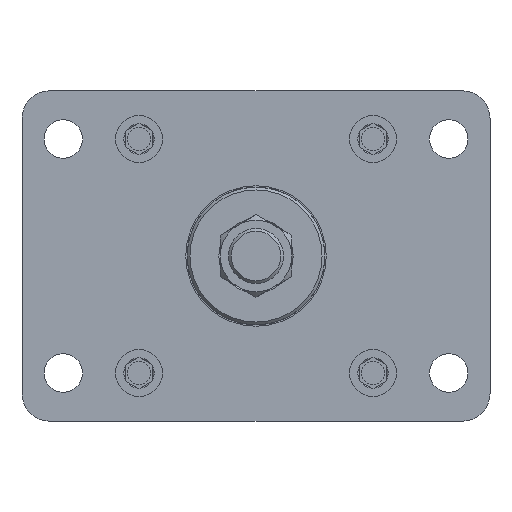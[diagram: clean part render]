
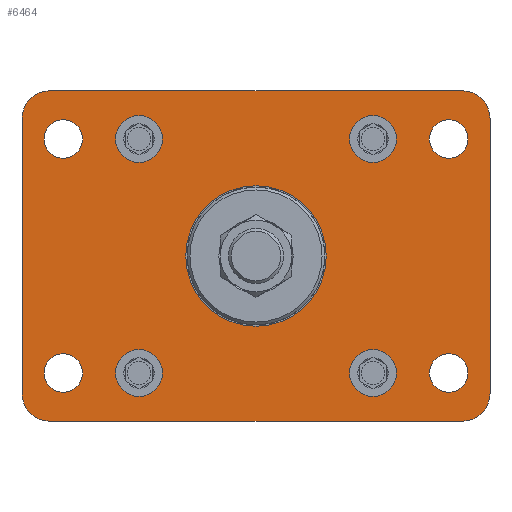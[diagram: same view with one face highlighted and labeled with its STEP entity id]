
A CAD part, front view. The second image highlights one B-rep face of the part: STEP entity #6464.
In plain terms, the highlighted planar face has unit normal (0, -1, 0).
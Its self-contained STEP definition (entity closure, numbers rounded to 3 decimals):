
#578=LINE('',#9850,#952);
#582=LINE('',#9859,#956);
#586=LINE('',#9868,#960);
#592=LINE('',#9882,#966);
#952=VECTOR('',#8331,1000.);
#956=VECTOR('',#8337,1000.);
#960=VECTOR('',#8343,1000.);
#966=VECTOR('',#8351,1000.);
#2156=ORIENTED_EDGE('',*,*,#2842,.T.);
#2157=ORIENTED_EDGE('',*,*,#2843,.T.);
#2158=ORIENTED_EDGE('',*,*,#2844,.T.);
#2159=ORIENTED_EDGE('',*,*,#2845,.T.);
#2160=ORIENTED_EDGE('',*,*,#2846,.T.);
#2161=ORIENTED_EDGE('',*,*,#2847,.T.);
#2162=ORIENTED_EDGE('',*,*,#2848,.T.);
#2163=ORIENTED_EDGE('',*,*,#2849,.T.);
#2164=ORIENTED_EDGE('',*,*,#2850,.T.);
#2165=ORIENTED_EDGE('',*,*,#2840,.T.);
#2166=ORIENTED_EDGE('',*,*,#2851,.T.);
#2167=ORIENTED_EDGE('',*,*,#2826,.T.);
#2168=ORIENTED_EDGE('',*,*,#2852,.T.);
#2169=ORIENTED_EDGE('',*,*,#2830,.T.);
#2170=ORIENTED_EDGE('',*,*,#2853,.T.);
#2171=ORIENTED_EDGE('',*,*,#2834,.T.);
#2172=ORIENTED_EDGE('',*,*,#2854,.T.);
#2826=EDGE_CURVE('',#3286,#3287,#578,.T.);
#2830=EDGE_CURVE('',#3290,#3291,#582,.T.);
#2834=EDGE_CURVE('',#3294,#3295,#586,.T.);
#2840=EDGE_CURVE('',#3301,#3300,#592,.T.);
#2842=EDGE_CURVE('',#3302,#3302,#3526,.F.);
#2843=EDGE_CURVE('',#3303,#3303,#3527,.F.);
#2844=EDGE_CURVE('',#3304,#3304,#3528,.F.);
#2845=EDGE_CURVE('',#3305,#3305,#3529,.F.);
#2846=EDGE_CURVE('',#3306,#3306,#3530,.F.);
#2847=EDGE_CURVE('',#3307,#3307,#3531,.F.);
#2848=EDGE_CURVE('',#3308,#3308,#3532,.F.);
#2849=EDGE_CURVE('',#3309,#3309,#3533,.F.);
#2850=EDGE_CURVE('',#3310,#3310,#3534,.F.);
#2851=EDGE_CURVE('',#3300,#3286,#3535,.T.);
#2852=EDGE_CURVE('',#3287,#3290,#3536,.T.);
#2853=EDGE_CURVE('',#3291,#3294,#3537,.T.);
#2854=EDGE_CURVE('',#3295,#3301,#3538,.T.);
#3286=VERTEX_POINT('',#9851);
#3287=VERTEX_POINT('',#9852);
#3290=VERTEX_POINT('',#9860);
#3291=VERTEX_POINT('',#9861);
#3294=VERTEX_POINT('',#9869);
#3295=VERTEX_POINT('',#9870);
#3300=VERTEX_POINT('',#9881);
#3301=VERTEX_POINT('',#9883);
#3302=VERTEX_POINT('',#9887);
#3303=VERTEX_POINT('',#9889);
#3304=VERTEX_POINT('',#9891);
#3305=VERTEX_POINT('',#9893);
#3306=VERTEX_POINT('',#9895);
#3307=VERTEX_POINT('',#9897);
#3308=VERTEX_POINT('',#9899);
#3309=VERTEX_POINT('',#9901);
#3310=VERTEX_POINT('',#9903);
#3526=CIRCLE('',#6986,25.5);
#3527=CIRCLE('',#6987,8.5);
#3528=CIRCLE('',#6988,8.5);
#3529=CIRCLE('',#6989,8.5);
#3530=CIRCLE('',#6990,8.5);
#3531=CIRCLE('',#6991,7.);
#3532=CIRCLE('',#6992,7.);
#3533=CIRCLE('',#6993,7.);
#3534=CIRCLE('',#6994,7.);
#3535=CIRCLE('',#6995,10.);
#3536=CIRCLE('',#6996,10.);
#3537=CIRCLE('',#6997,10.);
#3538=CIRCLE('',#6998,10.);
#3906=EDGE_LOOP('',(#2156));
#3907=EDGE_LOOP('',(#2157));
#3908=EDGE_LOOP('',(#2158));
#3909=EDGE_LOOP('',(#2159));
#3910=EDGE_LOOP('',(#2160));
#3911=EDGE_LOOP('',(#2161));
#3912=EDGE_LOOP('',(#2162));
#3913=EDGE_LOOP('',(#2163));
#3914=EDGE_LOOP('',(#2164));
#3915=EDGE_LOOP('',(#2165,#2166,#2167,#2168,#2169,#2170,#2171,#2172));
#4310=FACE_BOUND('',#3906,.T.);
#4311=FACE_BOUND('',#3907,.T.);
#4312=FACE_BOUND('',#3908,.T.);
#4313=FACE_BOUND('',#3909,.T.);
#4314=FACE_BOUND('',#3910,.T.);
#4315=FACE_BOUND('',#3911,.T.);
#4316=FACE_BOUND('',#3912,.T.);
#4317=FACE_BOUND('',#3913,.T.);
#4318=FACE_BOUND('',#3914,.T.);
#4319=FACE_BOUND('',#3915,.T.);
#4525=PLANE('',#6985);
#6464=ADVANCED_FACE('',(#4310,#4311,#4312,#4313,#4314,#4315,#4316,#4317,
#4318,#4319),#4525,.T.);
#6985=AXIS2_PLACEMENT_3D('',#9885,#8353,#8354);
#6986=AXIS2_PLACEMENT_3D('',#9886,#8355,#8356);
#6987=AXIS2_PLACEMENT_3D('',#9888,#8357,#8358);
#6988=AXIS2_PLACEMENT_3D('',#9890,#8359,#8360);
#6989=AXIS2_PLACEMENT_3D('',#9892,#8361,#8362);
#6990=AXIS2_PLACEMENT_3D('',#9894,#8363,#8364);
#6991=AXIS2_PLACEMENT_3D('',#9896,#8365,#8366);
#6992=AXIS2_PLACEMENT_3D('',#9898,#8367,#8368);
#6993=AXIS2_PLACEMENT_3D('',#9900,#8369,#8370);
#6994=AXIS2_PLACEMENT_3D('',#9902,#8371,#8372);
#6995=AXIS2_PLACEMENT_3D('',#9904,#8373,#8374);
#6996=AXIS2_PLACEMENT_3D('',#9905,#8375,#8376);
#6997=AXIS2_PLACEMENT_3D('',#9906,#8377,#8378);
#6998=AXIS2_PLACEMENT_3D('',#9907,#8379,#8380);
#8331=DIRECTION('',(0.,0.,-1.));
#8337=DIRECTION('',(1.,0.,0.));
#8343=DIRECTION('',(0.,0.,1.));
#8351=DIRECTION('',(-1.,0.,0.));
#8353=DIRECTION('',(0.,-1.,0.));
#8354=DIRECTION('',(0.,0.,-1.));
#8355=DIRECTION('',(0.,-1.,0.));
#8356=DIRECTION('',(0.,0.,-1.));
#8357=DIRECTION('',(0.,-1.,0.));
#8358=DIRECTION('',(0.,0.,-1.));
#8359=DIRECTION('',(0.,-1.,0.));
#8360=DIRECTION('',(0.,0.,-1.));
#8361=DIRECTION('',(0.,-1.,0.));
#8362=DIRECTION('',(0.,0.,-1.));
#8363=DIRECTION('',(0.,-1.,0.));
#8364=DIRECTION('',(0.,0.,-1.));
#8365=DIRECTION('',(0.,-1.,0.));
#8366=DIRECTION('',(0.,0.,-1.));
#8367=DIRECTION('',(0.,-1.,0.));
#8368=DIRECTION('',(0.,0.,-1.));
#8369=DIRECTION('',(0.,-1.,0.));
#8370=DIRECTION('',(0.,0.,-1.));
#8371=DIRECTION('',(0.,-1.,0.));
#8372=DIRECTION('',(0.,0.,-1.));
#8373=DIRECTION('',(0.,-1.,0.));
#8374=DIRECTION('',(0.,0.,-1.));
#8375=DIRECTION('',(0.,-1.,0.));
#8376=DIRECTION('',(0.,0.,-1.));
#8377=DIRECTION('',(0.,-1.,0.));
#8378=DIRECTION('',(0.,0.,-1.));
#8379=DIRECTION('',(0.,-1.,0.));
#8380=DIRECTION('',(0.,0.,-1.));
#9850=CARTESIAN_POINT('',(-85.,-16.,28.));
#9851=CARTESIAN_POINT('',(-85.,-16.,50.));
#9852=CARTESIAN_POINT('',(-85.,-16.,-50.));
#9859=CARTESIAN_POINT('',(-43.,-16.,-60.));
#9860=CARTESIAN_POINT('',(-75.,-16.,-60.));
#9861=CARTESIAN_POINT('',(75.,-16.,-60.));
#9868=CARTESIAN_POINT('',(85.,-16.,-28.));
#9869=CARTESIAN_POINT('',(85.,-16.,-50.));
#9870=CARTESIAN_POINT('',(85.,-16.,50.));
#9881=CARTESIAN_POINT('',(-75.,-16.,60.));
#9882=CARTESIAN_POINT('',(43.,-16.,60.));
#9883=CARTESIAN_POINT('',(75.,-16.,60.));
#9885=CARTESIAN_POINT('',(0.,-16.,0.));
#9886=CARTESIAN_POINT('',(0.,-16.,0.));
#9887=CARTESIAN_POINT('',(0.,-16.,-25.5));
#9888=CARTESIAN_POINT('',(-42.5,-16.,-42.5));
#9889=CARTESIAN_POINT('',(-42.5,-16.,-51.));
#9890=CARTESIAN_POINT('',(42.5,-16.,-42.5));
#9891=CARTESIAN_POINT('',(42.5,-16.,-51.));
#9892=CARTESIAN_POINT('',(42.5,-16.,42.5));
#9893=CARTESIAN_POINT('',(42.5,-16.,34.));
#9894=CARTESIAN_POINT('',(-42.5,-16.,42.5));
#9895=CARTESIAN_POINT('',(-42.5,-16.,34.));
#9896=CARTESIAN_POINT('',(70.,-16.,-42.5));
#9897=CARTESIAN_POINT('',(70.,-16.,-49.5));
#9898=CARTESIAN_POINT('',(-70.,-16.,-42.5));
#9899=CARTESIAN_POINT('',(-70.,-16.,-49.5));
#9900=CARTESIAN_POINT('',(-70.,-16.,42.5));
#9901=CARTESIAN_POINT('',(-70.,-16.,35.5));
#9902=CARTESIAN_POINT('',(70.,-16.,42.5));
#9903=CARTESIAN_POINT('',(70.,-16.,35.5));
#9904=CARTESIAN_POINT('',(-75.,-16.,50.));
#9905=CARTESIAN_POINT('',(-75.,-16.,-50.));
#9906=CARTESIAN_POINT('',(75.,-16.,-50.));
#9907=CARTESIAN_POINT('',(75.,-16.,50.));
